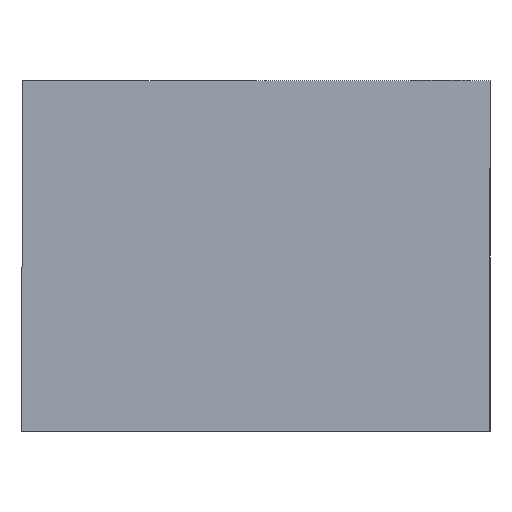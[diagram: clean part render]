
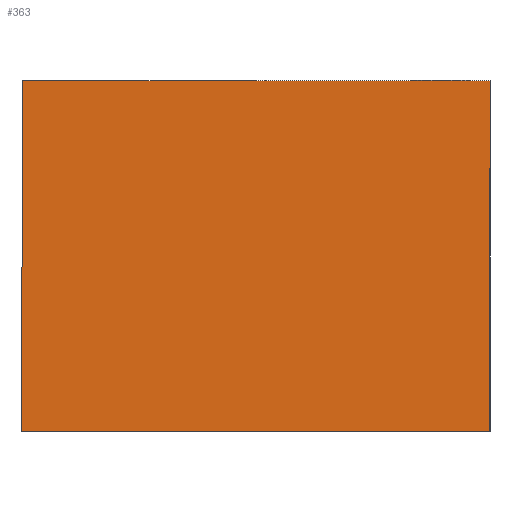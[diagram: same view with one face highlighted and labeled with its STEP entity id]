
A CAD part, front view. The second image highlights one B-rep face of the part: STEP entity #363.
In plain terms, the highlighted planar face has unit normal (0, -1, 0).
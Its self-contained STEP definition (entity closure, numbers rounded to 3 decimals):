
#3 = CARTESIAN_POINT ( 'NONE',  ( -100., 0., 75. ) ) ;
#115 = CARTESIAN_POINT ( 'NONE',  ( -100., 0., -75. ) ) ;
#124 = EDGE_LOOP ( 'NONE', ( #1894, #1507, #1782, #840 ) ) ;
#154 = DIRECTION ( 'NONE',  ( 0., 0., 1. ) ) ;
#173 = VECTOR ( 'NONE', #154, 1000. ) ;
#199 = LINE ( 'NONE', #115, #173 ) ;
#272 = DIRECTION ( 'NONE',  ( 1., 0., 0. ) ) ;
#294 = AXIS2_PLACEMENT_3D ( 'NONE', #429, #477, #468 ) ;
#334 = CARTESIAN_POINT ( 'NONE',  ( 100., 0., -75. ) ) ;
#342 = FACE_OUTER_BOUND ( 'NONE', #124, .T. ) ;
#350 = VECTOR ( 'NONE', #418, 1000. ) ;
#363 = ADVANCED_FACE ( 'NONE', ( #342 ), #483, .F. ) ;
#379 = LINE ( 'NONE', #432, #350 ) ;
#418 = DIRECTION ( 'NONE',  ( -1., 0., 0. ) ) ;
#429 = CARTESIAN_POINT ( 'NONE',  ( 0., 0., 0. ) ) ;
#432 = CARTESIAN_POINT ( 'NONE',  ( -100., 0., -75. ) ) ;
#468 = DIRECTION ( 'NONE',  ( 0., 0., 1. ) ) ;
#477 = DIRECTION ( 'NONE',  ( 0., 1., 0. ) ) ;
#483 = PLANE ( 'NONE',  #294 ) ;
#514 = VECTOR ( 'NONE', #792, 1000. ) ;
#516 = LINE ( 'NONE', #334, #514 ) ;
#573 = VECTOR ( 'NONE', #272, 1000. ) ;
#686 = LINE ( 'NONE', #3, #573 ) ;
#792 = DIRECTION ( 'NONE',  ( 0., 0., -1. ) ) ;
#840 = ORIENTED_EDGE ( 'NONE', *, *, #1666, .F. ) ;
#909 = VERTEX_POINT ( 'NONE', #2114 ) ;
#1412 = VERTEX_POINT ( 'NONE', #1547 ) ;
#1507 = ORIENTED_EDGE ( 'NONE', *, *, #1545, .F. ) ;
#1536 = CARTESIAN_POINT ( 'NONE',  ( 100., 0., -75. ) ) ;
#1545 = EDGE_CURVE ( 'NONE', #1412, #2057, #686, .T. ) ;
#1547 = CARTESIAN_POINT ( 'NONE',  ( -100., 0., 75. ) ) ;
#1579 = CARTESIAN_POINT ( 'NONE',  ( 100., 0., 75. ) ) ;
#1581 = EDGE_CURVE ( 'NONE', #2057, #2017, #516, .T. ) ;
#1666 = EDGE_CURVE ( 'NONE', #2017, #909, #379, .T. ) ;
#1732 = EDGE_CURVE ( 'NONE', #909, #1412, #199, .T. ) ;
#1782 = ORIENTED_EDGE ( 'NONE', *, *, #1732, .F. ) ;
#1894 = ORIENTED_EDGE ( 'NONE', *, *, #1581, .F. ) ;
#2017 = VERTEX_POINT ( 'NONE', #1536 ) ;
#2057 = VERTEX_POINT ( 'NONE', #1579 ) ;
#2114 = CARTESIAN_POINT ( 'NONE',  ( -100., 0., -75. ) ) ;
